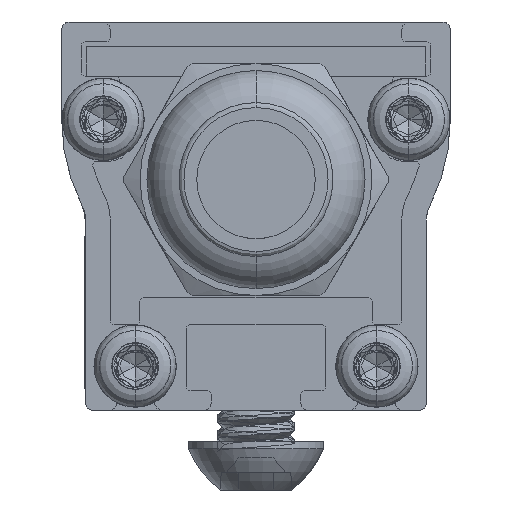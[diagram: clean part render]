
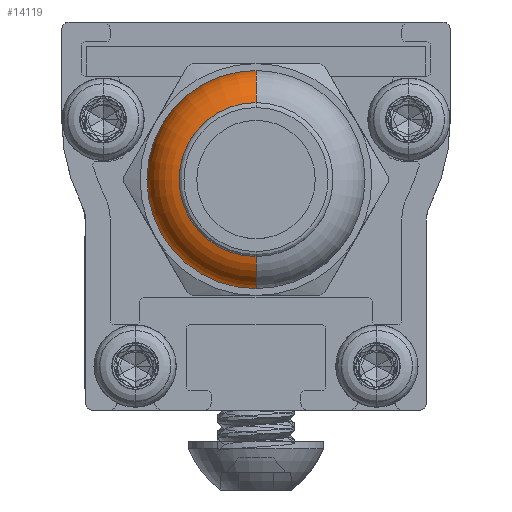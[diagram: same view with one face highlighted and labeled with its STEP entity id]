
A CAD part, left-side view. The second image highlights one B-rep face of the part: STEP entity #14119.
In plain terms, the highlighted toroidal (fillet/blend) face has major radius 3.518 mm and minor radius 2.095 mm.
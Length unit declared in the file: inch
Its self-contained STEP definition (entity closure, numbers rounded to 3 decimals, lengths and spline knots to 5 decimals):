
#2201 = EDGE_CURVE ( 'NONE', #12813, #14887, #30514, .T. ) ;
#4570 = EDGE_CURVE ( 'NONE', #11860, #12813, #11727, .T. ) ;
#4828 = DIRECTION ( 'NONE',  ( 0., -1., 0. ) ) ;
#5350 = DIRECTION ( 'NONE',  ( 0., 0., 1. ) ) ;
#5546 = DIRECTION ( 'NONE',  ( -1., 0., 0. ) ) ;
#7550 = CARTESIAN_POINT ( 'NONE',  ( -0.395, 0., 0. ) ) ;
#7852 = CARTESIAN_POINT ( 'NONE',  ( -0.31437, 0., 0. ) ) ;
#8158 = EDGE_CURVE ( 'NONE', #11860, #27694, #9987, .T. ) ;
#9671 = DIRECTION ( 'NONE',  ( 0., 0., 1. ) ) ;
#9927 = ORIENTED_EDGE ( 'NONE', *, *, #4570, .F. ) ;
#9932 = DIRECTION ( 'NONE',  ( 0., 0., -1. ) ) ;
#9987 = CIRCLE ( 'NONE', #16806, 0.0825 ) ;
#10727 = EDGE_CURVE ( 'NONE', #14887, #27694, #21394, .T. ) ;
#11727 = CIRCLE ( 'NONE', #16729, 0.22102 ) ;
#11860 = VERTEX_POINT ( 'NONE', #20511 ) ;
#12465 = CARTESIAN_POINT ( 'NONE',  ( -0.31437, 0., 0. ) ) ;
#12813 = VERTEX_POINT ( 'NONE', #13396 ) ;
#13396 = CARTESIAN_POINT ( 'NONE',  ( -0.31437, 0., 0.22102 ) ) ;
#14062 = ORIENTED_EDGE ( 'NONE', *, *, #8158, .T. ) ;
#14119 = ADVANCED_FACE ( 'NONE', ( #27211 ), #17542, .T. ) ;
#14887 = VERTEX_POINT ( 'NONE', #23034 ) ;
#16315 = AXIS2_PLACEMENT_3D ( 'NONE', #21799, #4828, #9932 ) ;
#16564 = CARTESIAN_POINT ( 'NONE',  ( -0.395, 0., -0.156 ) ) ;
#16729 = AXIS2_PLACEMENT_3D ( 'NONE', #12465, #29140, #26847 ) ;
#16806 = AXIS2_PLACEMENT_3D ( 'NONE', #16896, #26481, #9671 ) ;
#16896 = CARTESIAN_POINT ( 'NONE',  ( -0.31437, 0., -0.13852 ) ) ;
#17542 = TOROIDAL_SURFACE ( 'NONE', #22064, 0.13852, 0.0825 ) ;
#17647 = ORIENTED_EDGE ( 'NONE', *, *, #2201, .F. ) ;
#20511 = CARTESIAN_POINT ( 'NONE',  ( -0.31437, 0., -0.22102 ) ) ;
#21394 = CIRCLE ( 'NONE', #22564, 0.156 ) ;
#21799 = CARTESIAN_POINT ( 'NONE',  ( -0.31437, 0., 0.13852 ) ) ;
#22064 = AXIS2_PLACEMENT_3D ( 'NONE', #7852, #5546, #29236 ) ;
#22564 = AXIS2_PLACEMENT_3D ( 'NONE', #7550, #26545, #5350 ) ;
#23034 = CARTESIAN_POINT ( 'NONE',  ( -0.395, 0., 0.156 ) ) ;
#23567 = ORIENTED_EDGE ( 'NONE', *, *, #10727, .F. ) ;
#26481 = DIRECTION ( 'NONE',  ( 0., 1., 0. ) ) ;
#26545 = DIRECTION ( 'NONE',  ( -1., 0., 0. ) ) ;
#26625 = EDGE_LOOP ( 'NONE', ( #9927, #14062, #23567, #17647 ) ) ;
#26847 = DIRECTION ( 'NONE',  ( 0., 0., 1. ) ) ;
#27211 = FACE_OUTER_BOUND ( 'NONE', #26625, .T. ) ;
#27694 = VERTEX_POINT ( 'NONE', #16564 ) ;
#29140 = DIRECTION ( 'NONE',  ( 1., 0., 0. ) ) ;
#29236 = DIRECTION ( 'NONE',  ( 0., 0., 1. ) ) ;
#30514 = CIRCLE ( 'NONE', #16315, 0.0825 ) ;
